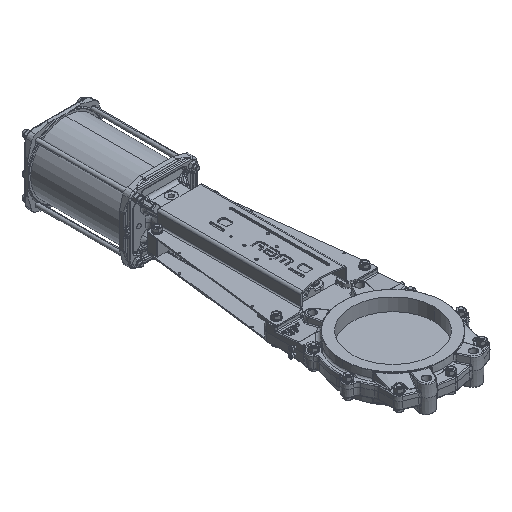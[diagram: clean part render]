
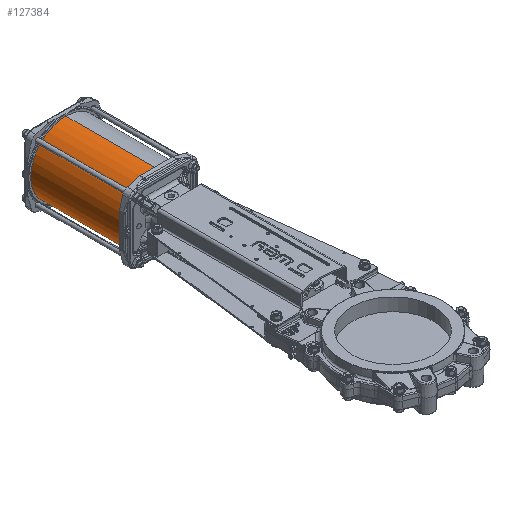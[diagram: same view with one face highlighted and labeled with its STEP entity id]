
A CAD part, isometric view. The second image highlights one B-rep face of the part: STEP entity #127384.
In plain terms, the highlighted cylindrical face has radius 85 mm (diameter 170 mm), a partial arc.
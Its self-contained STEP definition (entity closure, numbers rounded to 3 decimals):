
#5099 = LINE ( 'NONE', #54565, #123609 ) ;
#27909 = CARTESIAN_POINT ( 'NONE',  ( 0., 570., 84.75 ) ) ;
#31857 = CIRCLE ( 'NONE', #69863, 85. ) ;
#41385 = CARTESIAN_POINT ( 'NONE',  ( 0., 794., 84.75 ) ) ;
#52014 = DIRECTION ( 'NONE',  ( 0., -1., 0. ) ) ;
#54565 = CARTESIAN_POINT ( 'NONE',  ( 0., 565.641, 84.75 ) ) ;
#57559 = EDGE_LOOP ( 'NONE', ( #86265, #91924, #73089, #80819 ) ) ;
#60477 = EDGE_CURVE ( 'NONE', #79657, #171282, #141352, .T. ) ;
#61326 = CARTESIAN_POINT ( 'NONE',  ( 0., 565.641, -0.25 ) ) ;
#64426 = FACE_OUTER_BOUND ( 'NONE', #57559, .T. ) ;
#69863 = AXIS2_PLACEMENT_3D ( 'NONE', #173653, #83820, #191979 ) ;
#73089 = ORIENTED_EDGE ( 'NONE', *, *, #169670, .T. ) ;
#76886 = DIRECTION ( 'NONE',  ( 0., -1., 0. ) ) ;
#79657 = VERTEX_POINT ( 'NONE', #41385 ) ;
#80819 = ORIENTED_EDGE ( 'NONE', *, *, #164839, .T. ) ;
#83820 = DIRECTION ( 'NONE',  ( 0., 1., 0. ) ) ;
#85958 = CARTESIAN_POINT ( 'NONE',  ( 0., 794., -0.25 ) ) ;
#86265 = ORIENTED_EDGE ( 'NONE', *, *, #200189, .F. ) ;
#90363 = CARTESIAN_POINT ( 'NONE',  ( 0., 794., -85.25 ) ) ;
#91924 = ORIENTED_EDGE ( 'NONE', *, *, #60477, .T. ) ;
#94623 = LINE ( 'NONE', #159946, #130802 ) ;
#95047 = VERTEX_POINT ( 'NONE', #27909 ) ;
#101519 = DIRECTION ( 'NONE',  ( 1., 0., 0. ) ) ;
#123609 = VECTOR ( 'NONE', #132184, 1000. ) ;
#127234 = CYLINDRICAL_SURFACE ( 'NONE', #128343, 85. ) ;
#127384 = ADVANCED_FACE ( 'NONE', ( #64426 ), #127234, .T. ) ;
#128343 = AXIS2_PLACEMENT_3D ( 'NONE', #61326, #76886, #138941 ) ;
#130802 = VECTOR ( 'NONE', #52014, 1000. ) ;
#132184 = DIRECTION ( 'NONE',  ( 0., -1., 0. ) ) ;
#138941 = DIRECTION ( 'NONE',  ( 0., 0., -1. ) ) ;
#139097 = AXIS2_PLACEMENT_3D ( 'NONE', #85958, #194100, #101519 ) ;
#141352 = CIRCLE ( 'NONE', #139097, 85. ) ;
#159946 = CARTESIAN_POINT ( 'NONE',  ( 0., 565.641, -85.25 ) ) ;
#164839 = EDGE_CURVE ( 'NONE', #194257, #95047, #31857, .T. ) ;
#169670 = EDGE_CURVE ( 'NONE', #171282, #194257, #94623, .T. ) ;
#171282 = VERTEX_POINT ( 'NONE', #90363 ) ;
#173653 = CARTESIAN_POINT ( 'NONE',  ( 0., 570., -0.25 ) ) ;
#178698 = CARTESIAN_POINT ( 'NONE',  ( 0., 570., -85.25 ) ) ;
#191979 = DIRECTION ( 'NONE',  ( 1., 0., 0. ) ) ;
#194100 = DIRECTION ( 'NONE',  ( 0., -1., 0. ) ) ;
#194257 = VERTEX_POINT ( 'NONE', #178698 ) ;
#200189 = EDGE_CURVE ( 'NONE', #79657, #95047, #5099, .T. ) ;
